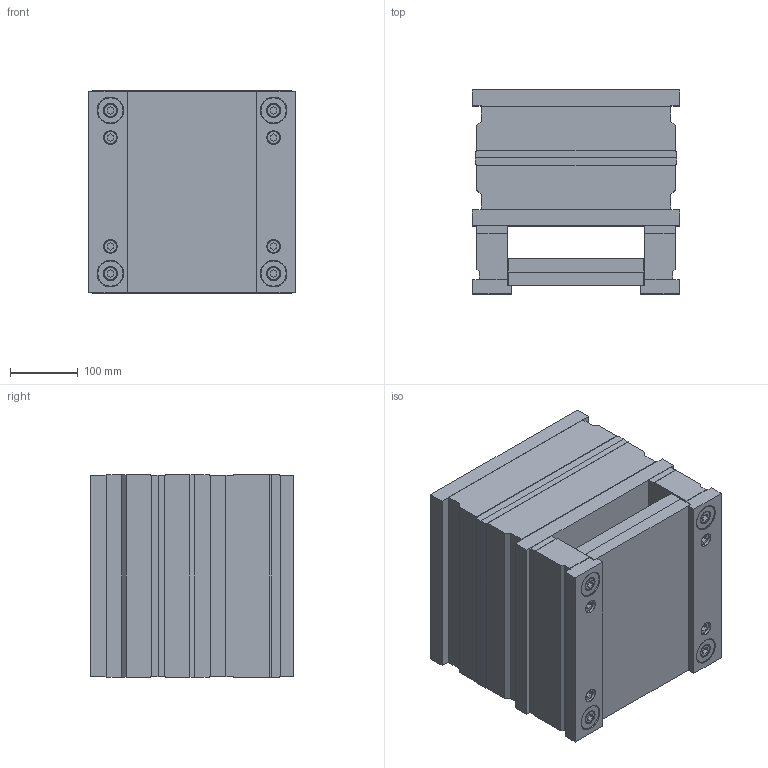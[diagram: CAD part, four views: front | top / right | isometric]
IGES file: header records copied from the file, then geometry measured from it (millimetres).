
Start section: SolidWorks IGES FILE using analytic representation for surfaces
Global section: file name: C:\Documents and Settings\K.P\My Documents\Mechanical\ALMO\CATL_EUR\RECT\2961.IGS; native system: SolidWorks 2001Plus by SolidWorks Corporation; preprocessor: Version 5.3; author: Pavel; date: 020710.072950; units: millimetre
Bounding box: 305 x 300 x 298 mm (x, y, z)
Surface area: 1398681.7 mm2 (no closed solid volume)
Topology: 0 solids, 0 shells, 862 faces, 16008 edges, 15992 vertices
Faces by surface type: revolution 532, bspline 330
